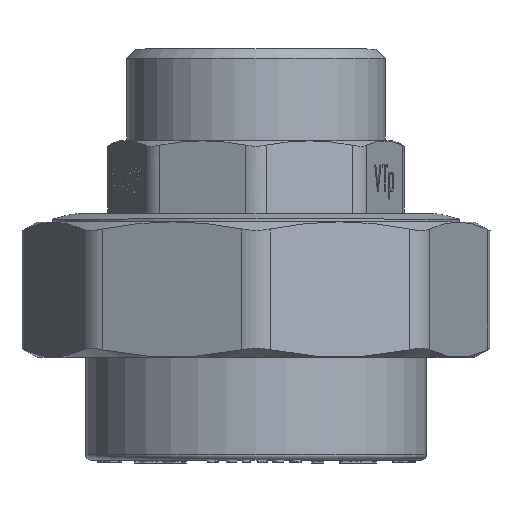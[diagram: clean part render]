
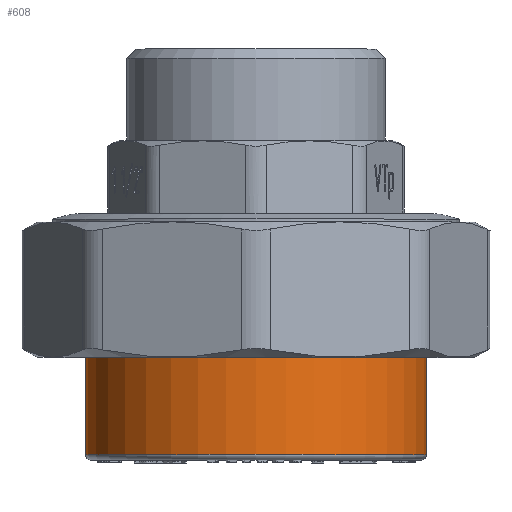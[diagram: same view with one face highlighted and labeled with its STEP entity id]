
A CAD part, top view. The second image highlights one B-rep face of the part: STEP entity #608.
In plain terms, the highlighted cylindrical face has radius 31.5 mm (diameter 63 mm), a full revolution.
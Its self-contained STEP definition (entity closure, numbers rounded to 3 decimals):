
#608=ADVANCED_FACE('',(#4406,#4408),#4410,.T.);
#4406=FACE_OUTER_BOUND('',#4407,.T.);
#4407=EDGE_LOOP('',(#10826));
#4408=FACE_OUTER_BOUND('',#4409,.T.);
#4409=EDGE_LOOP('',(#10827));
#4410=CYLINDRICAL_SURFACE('',#4411,31.5);
#4411=AXIS2_PLACEMENT_3D('',#4412,#4413,#4414);
#4412=CARTESIAN_POINT('',(0.,0.,0.));
#4413=DIRECTION('',(0.,1.,0.));
#4414=DIRECTION('',(-1.,0.,0.));
#10826=ORIENTED_EDGE('',*,*,#14752,.F.);
#10827=ORIENTED_EDGE('',*,*,#14749,.T.);
#14749=EDGE_CURVE('',#18173,#18173,#18174,.T.);
#14752=EDGE_CURVE('',#18178,#18178,#18179,.T.);
#18173=VERTEX_POINT('',#25198);
#18174=CIRCLE('',#25199,31.5);
#18178=VERTEX_POINT('',#25211);
#18179=CIRCLE('',#25212,31.5);
#25198=CARTESIAN_POINT('',(-31.5,1.,0.));
#25199=AXIS2_PLACEMENT_3D('',#25200,#25201,#25202);
#25200=CARTESIAN_POINT('',(0.,1.,0.));
#25201=DIRECTION('',(0.,1.,0.));
#25202=DIRECTION('',(-1.,0.,0.));
#25211=CARTESIAN_POINT('',(-31.5,23.5,0.));
#25212=AXIS2_PLACEMENT_3D('',#25213,#25214,#25215);
#25213=CARTESIAN_POINT('',(0.,23.5,0.));
#25214=DIRECTION('',(0.,1.,0.));
#25215=DIRECTION('',(-1.,0.,0.));
